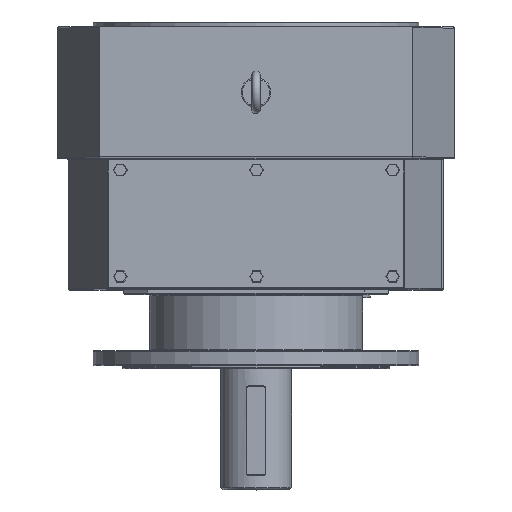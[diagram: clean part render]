
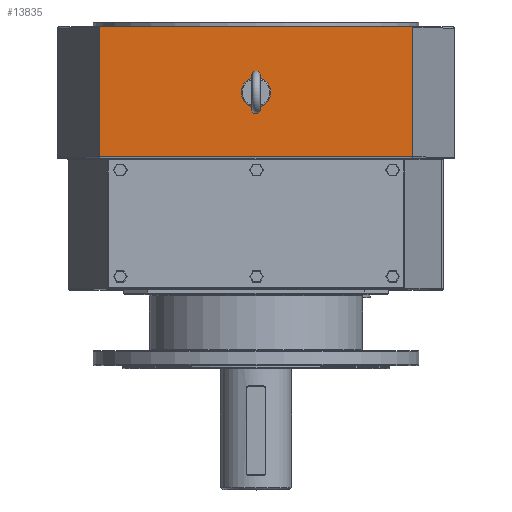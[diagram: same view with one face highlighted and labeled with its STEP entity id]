
A CAD part, top view. The second image highlights one B-rep face of the part: STEP entity #13835.
In plain terms, the highlighted planar face has unit normal (0, 0, 1).
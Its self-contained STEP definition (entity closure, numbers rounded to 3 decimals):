
#12883=CARTESIAN_POINT('',(25.0,111.,675.0));
#12884=VERTEX_POINT('',#12883);
#12885=CARTESIAN_POINT('',(0.,111.,675.0));
#12886=DIRECTION('',(0.0,0.0,-1.));
#12887=DIRECTION('',(0.707,0.707,0.0));
#12888=AXIS2_PLACEMENT_3D('',#12885,#12886,#12887);
#12889=CIRCLE('',#12888,25.);
#12890=EDGE_CURVE('',#12884,#12884,#12889,.F.);
#13492=CARTESIAN_POINT('',(-265.0,220.,675.0));
#13493=VERTEX_POINT('',#13492);
#13494=CARTESIAN_POINT('',(-262.806,222.,675.0));
#13495=VERTEX_POINT('',#13494);
#13496=CARTESIAN_POINT('',(-262.806,220.,675.0));
#13497=DIRECTION('',(0.0,0.0,-1.0));
#13498=DIRECTION('',(-1.0,0.0,0.0));
#13499=AXIS2_PLACEMENT_3D('',#13496,#13497,#13498);
#13500=ELLIPSE('',#13499,2.194,2.);
#13501=EDGE_CURVE('',#13493,#13495,#13500,.T.);
#13700=CARTESIAN_POINT('',(262.806,222.,675.0));
#13701=VERTEX_POINT('',#13700);
#13702=CARTESIAN_POINT('',(262.806,222.,675.0));
#13703=DIRECTION('',(-1.0,0.0,0.0));
#13704=VECTOR('',#13703,525.611);
#13705=LINE('',#13702,#13704);
#13706=EDGE_CURVE('',#13701,#13495,#13705,.T.);
#13792=CARTESIAN_POINT('',(0.0,0.0,675.0));
#13793=DIRECTION('',(0.0,0.0,1.0));
#13794=DIRECTION('',(1.0,0.0,0.0));
#13795=AXIS2_PLACEMENT_3D('',#13792,#13793,#13794);
#13796=PLANE('',#13795);
#13797=ORIENTED_EDGE('',*,*,#13501,.F.);
#13798=CARTESIAN_POINT('',(-265.0,2.0,675.0));
#13799=VERTEX_POINT('',#13798);
#13800=CARTESIAN_POINT('',(-265.0,2.0,675.0));
#13801=DIRECTION('',(0.0,1.0,0.0));
#13802=VECTOR('',#13801,218.);
#13803=LINE('',#13800,#13802);
#13804=EDGE_CURVE('',#13799,#13493,#13803,.T.);
#13805=ORIENTED_EDGE('',*,*,#13804,.F.);
#13806=CARTESIAN_POINT('',(265.0,2.,675.0));
#13807=VERTEX_POINT('',#13806);
#13808=CARTESIAN_POINT('',(265.0,2.,675.0));
#13809=DIRECTION('',(-1.0,0.0,0.0));
#13810=VECTOR('',#13809,530.0);
#13811=LINE('',#13808,#13810);
#13812=EDGE_CURVE('',#13807,#13799,#13811,.T.);
#13813=ORIENTED_EDGE('',*,*,#13812,.F.);
#13814=CARTESIAN_POINT('',(265.0,220.,675.0));
#13815=VERTEX_POINT('',#13814);
#13816=CARTESIAN_POINT('',(265.0,2.,675.0));
#13817=DIRECTION('',(0.0,1.0,0.0));
#13818=VECTOR('',#13817,218.);
#13819=LINE('',#13816,#13818);
#13820=EDGE_CURVE('',#13807,#13815,#13819,.T.);
#13821=ORIENTED_EDGE('',*,*,#13820,.T.);
#13822=CARTESIAN_POINT('',(262.806,220.,675.0));
#13823=DIRECTION('',(0.0,0.0,-1.0));
#13824=DIRECTION('',(1.0,0.0,0.0));
#13825=AXIS2_PLACEMENT_3D('',#13822,#13823,#13824);
#13826=ELLIPSE('',#13825,2.194,2.);
#13827=EDGE_CURVE('',#13701,#13815,#13826,.T.);
#13828=ORIENTED_EDGE('',*,*,#13827,.F.);
#13829=ORIENTED_EDGE('',*,*,#13706,.T.);
#13830=EDGE_LOOP('',(#13797,#13805,#13813,#13821,#13828,#13829));
#13831=FACE_OUTER_BOUND('',#13830,.T.);
#13832=ORIENTED_EDGE('',*,*,#12890,.F.);
#13833=EDGE_LOOP('',(#13832));
#13834=FACE_BOUND('',#13833,.T.);
#13835=ADVANCED_FACE('',(#13831,#13834),#13796,.T.);
